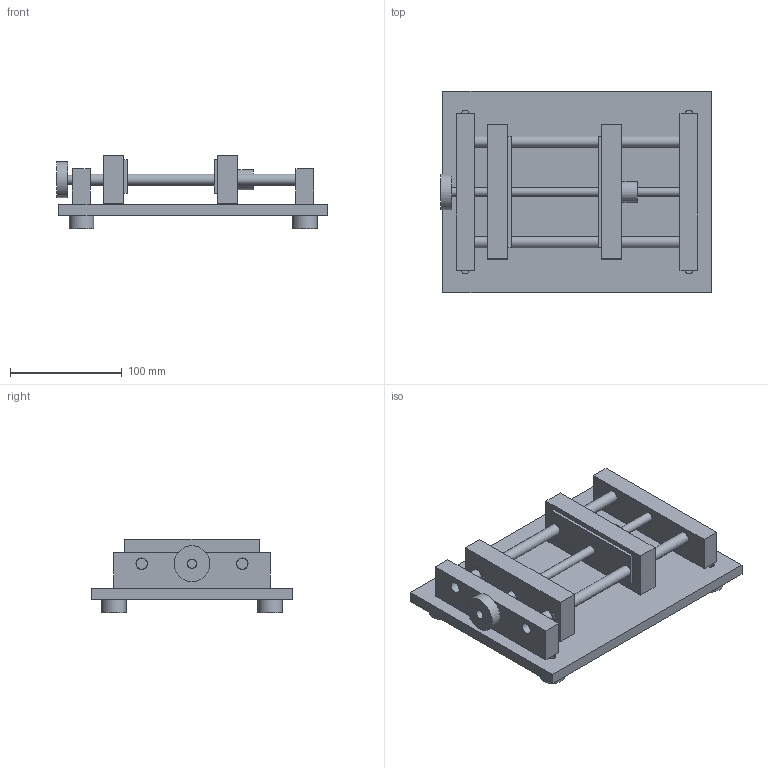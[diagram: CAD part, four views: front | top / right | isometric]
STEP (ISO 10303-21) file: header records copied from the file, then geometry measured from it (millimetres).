
FILE_DESCRIPTION(('Open CASCADE Model'),'2;1');
FILE_NAME('inspection-fixture','2026-10-03T09:08:35',('Author'),( 'Open CASCADE'),'Open CASCADE STEP processor 7.9','build123d', 'Unknown');
FILE_SCHEMA(('AUTOMOTIVE_DESIGN { 1 0 10303 214 1 1 1 1 }'));
Length unit declared in the file: millimetre
Products named in the file (25): inspection-fixture; 01_base; F01; F02_1; F02_2; F02_3; F02_4; 02_guides; F03_1; F03_2; F04_1; F04_2; 03_jaws; F05_1; F06_1_1; F06_1_2; F07_1; F05_2; F06_2_1; F06_2_2; F07_2; 04_handwheel; F08; F09; F10
Assembly tree (24 placements, depth 3):
  inspection-fixture
    01_base
      F01
      F02_1
      F02_2
      F02_3
      F02_4
    02_guides
      F03_1
      F03_2
      F04_1
      F04_2
    03_jaws
      F05_1
      F06_1_1
      F06_1_2
      F07_1
      F05_2
      F06_2_1
      F06_2_2
      F07_2
    04_handwheel
      F08
      F09
      F10
Bounding box: 242 x 180 x 66 mm (x, y, z)
Volume: 833069.6 mm3; surface area: 211097.9 mm2
Topology: 20 solids, 20 shells, 103 faces, 189 edges, 126 vertices
Faces by surface type: plane 68, cylinder 35
Full cylindrical faces by diameter (mm): 6.6 x4, 8 x1, 8.4 x4, 8.6 x2, 10 x2, 10.3 x4, 10.4 x4, 16 x4, 16.2 x4, 18 x1, 22 x4, 32 x1
Entity records: 5893 total; most frequent: DIRECTION 893, CARTESIAN_POINT 821, LINE 427, VECTOR 427, ORIENTED_EDGE 378, PCURVE 378, DEFINITIONAL_REPRESENTATION 378, AXIS2_PLACEMENT_3D 198
